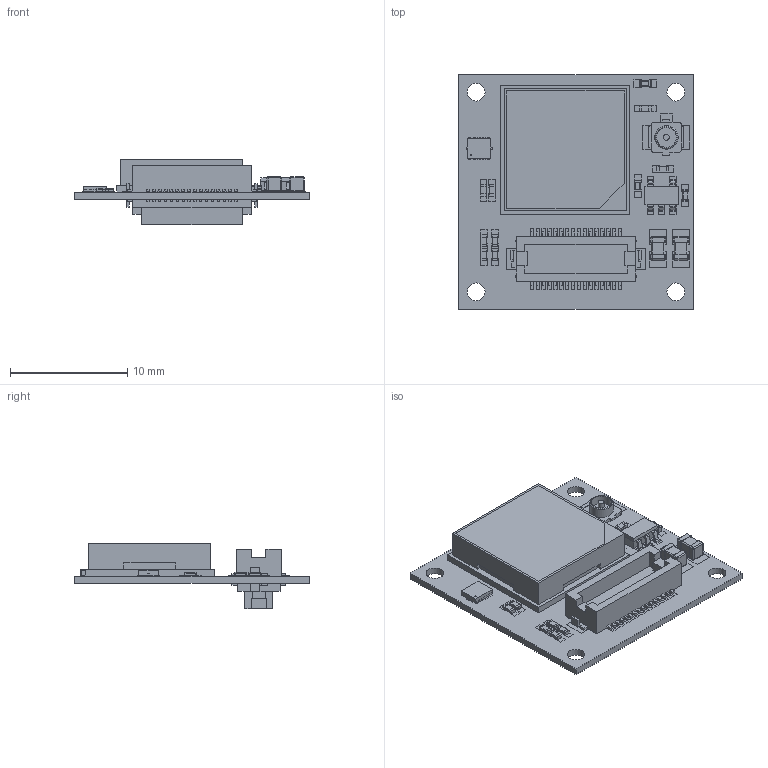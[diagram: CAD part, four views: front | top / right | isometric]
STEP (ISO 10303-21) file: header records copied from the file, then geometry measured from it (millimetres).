
FILE_DESCRIPTION(('FreeCAD Model'),'2;1');
FILE_NAME('/home/devy/MEGA/TinyCircuits/Assets/BoardsANDBoardModels_2/Shields/TinyCircuits-TinyShield-GPS-ASD2501/cad/TinyShield_GPS_ASD2501_REV4-STEP.step','2020-07-16T15:01:48',('Author'),(''), 'Open CASCADE STEP processor 7.4','FreeCAD','Unknown');
FILE_SCHEMA(('AUTOMOTIVE_DESIGN { 1 0 10303 214 1 1 1 1 }'));
Products named in the file (1): TinyShield_GPS_ASD2501_REV4-STEP
Bounding box: 20 x 20 x 5.6 mm (x, y, z)
Volume: 1352.7 mm3; surface area: 3533.7 mm2
Topology: 242 solids, 242 shells, 3118 faces, 8360 edges, 6592 vertices
Faces by surface type: plane 2768, cylinder 248, sphere 80, revolution 20, cone 2
Full cylindrical faces by diameter (mm): 0.5 x10, 0.652 x8, 1.502 x8, 1.7 x2, 2 x2
Entity records: 219300 total; most frequent: CARTESIAN_POINT 35693, DIRECTION 29274, LINE 21052, VECTOR 21052, ORIENTED_EDGE 14736, PCURVE 14736, DEFINITIONAL_REPRESENTATION 14736, EDGE_CURVE 7368
